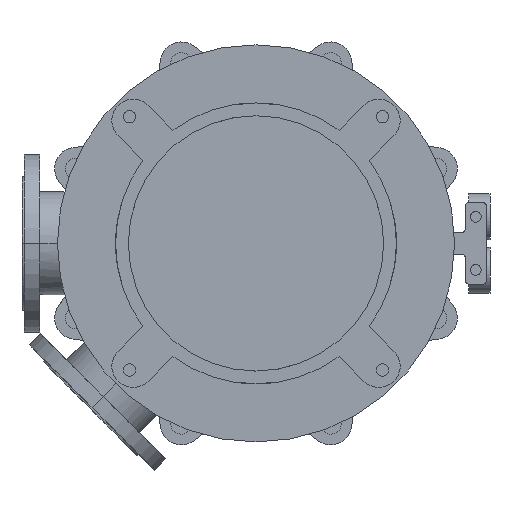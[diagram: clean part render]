
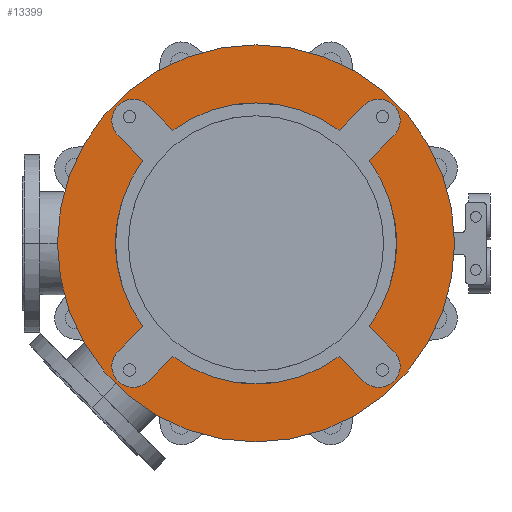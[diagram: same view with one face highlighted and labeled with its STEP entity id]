
A CAD part, front view. The second image highlights one B-rep face of the part: STEP entity #13399.
In plain terms, the highlighted planar face has unit normal (0, -1, 0).
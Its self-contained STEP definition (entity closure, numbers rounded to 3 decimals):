
#3030=CARTESIAN_POINT('',(0.,-25.,0.));
#3031=DIRECTION('',(0.,1.,0.));
#3032=DIRECTION('',(0.592,0.,-0.806));
#3033=AXIS2_PLACEMENT_3D('',#3030,#3031,#3032);
#3048=CARTESIAN_POINT('',(0.,-25.,0.));
#3049=DIRECTION('',(0.,1.,0.));
#3050=DIRECTION('',(0.806,0.,0.592));
#3051=AXIS2_PLACEMENT_3D('',#3048,#3049,#3050);
#3075=CARTESIAN_POINT('',(0.,-25.,0.));
#3076=DIRECTION('',(0.,1.,0.));
#3077=DIRECTION('',(-0.806,0.,-0.592));
#3078=AXIS2_PLACEMENT_3D('',#3075,#3076,#3077);
#3084=CARTESIAN_POINT('',(0.,-25.,0.));
#3085=DIRECTION('',(0.,1.,0.));
#3086=DIRECTION('',(-0.592,0.,0.806));
#3087=AXIS2_PLACEMENT_3D('',#3084,#3085,#3086);
#3262=CARTESIAN_POINT('',(0.,-25.,0.));
#3263=DIRECTION('',(0.,-1.,0.));
#3264=DIRECTION('',(-1.,0.,0.));
#3265=AXIS2_PLACEMENT_3D('',#3262,#3263,#3264);
#3267=CARTESIAN_POINT('',(0.,-25.,0.));
#3268=DIRECTION('',(0.,1.,0.));
#3269=DIRECTION('',(-1.,0.,0.));
#3270=AXIS2_PLACEMENT_3D('',#3267,#3268,#3269);
#3272=CARTESIAN_POINT('',(-173.241,-25.,173.241));
#3273=DIRECTION('',(0.,-1.,0.));
#3274=DIRECTION('',(0.707,0.,0.707));
#3275=AXIS2_PLACEMENT_3D('',#3272,#3273,#3274);
#3277=DIRECTION('',(0.707,0.,-0.707));
#3278=VECTOR('',#3277,49.286);
#3279=CARTESIAN_POINT('',(-194.454,-25.,152.028));
#3280=LINE('',#3279,#3278);
#3281=DIRECTION('',(-0.707,0.,-0.707));
#3282=VECTOR('',#3281,49.286);
#3283=CARTESIAN_POINT('',(-159.604,-25.,-117.178));
#3284=LINE('',#3283,#3282);
#3285=CARTESIAN_POINT('',(-173.241,-25.,-173.241));
#3286=DIRECTION('',(0.,-1.,0.));
#3287=DIRECTION('',(-0.707,0.,0.707));
#3288=AXIS2_PLACEMENT_3D('',#3285,#3286,#3287);
#3290=DIRECTION('',(0.707,0.,0.707));
#3291=VECTOR('',#3290,49.286);
#3292=CARTESIAN_POINT('',(-152.028,-25.,-194.454));
#3293=LINE('',#3292,#3291);
#3294=DIRECTION('',(0.707,0.,-0.707));
#3295=VECTOR('',#3294,49.286);
#3296=CARTESIAN_POINT('',(117.178,-25.,-159.604));
#3297=LINE('',#3296,#3295);
#3298=CARTESIAN_POINT('',(173.241,-25.,-173.241));
#3299=DIRECTION('',(0.,-1.,0.));
#3300=DIRECTION('',(-0.707,0.,-0.707));
#3301=AXIS2_PLACEMENT_3D('',#3298,#3299,#3300);
#3303=DIRECTION('',(-0.707,0.,0.707));
#3304=VECTOR('',#3303,49.286);
#3305=CARTESIAN_POINT('',(194.454,-25.,-152.028));
#3306=LINE('',#3305,#3304);
#3307=DIRECTION('',(0.707,0.,0.707));
#3308=VECTOR('',#3307,49.286);
#3309=CARTESIAN_POINT('',(159.604,-25.,117.178));
#3310=LINE('',#3309,#3308);
#3311=CARTESIAN_POINT('',(173.241,-25.,173.241));
#3312=DIRECTION('',(0.,-1.,0.));
#3313=DIRECTION('',(0.707,0.,-0.707));
#3314=AXIS2_PLACEMENT_3D('',#3311,#3312,#3313);
#3316=DIRECTION('',(-0.707,0.,-0.707));
#3317=VECTOR('',#3316,49.286);
#3318=CARTESIAN_POINT('',(152.028,-25.,194.454));
#3319=LINE('',#3318,#3317);
#3320=DIRECTION('',(-0.707,0.,0.707));
#3321=VECTOR('',#3320,49.286);
#3322=CARTESIAN_POINT('',(-117.178,-25.,159.604));
#3323=LINE('',#3322,#3321);
#8375=CARTESIAN_POINT('',(-280.,-25.,0.));
#8376=CARTESIAN_POINT('',(280.,-25.,0.));
#8377=VERTEX_POINT('',#8375);
#8378=VERTEX_POINT('',#8376);
#8399=CARTESIAN_POINT('',(-194.454,-25.,-152.028));
#8400=CARTESIAN_POINT('',(-152.028,-25.,-194.454));
#8401=VERTEX_POINT('',#8399);
#8402=VERTEX_POINT('',#8400);
#8403=CARTESIAN_POINT('',(-117.178,-25.,-159.604));
#8404=VERTEX_POINT('',#8403);
#8405=CARTESIAN_POINT('',(-159.604,-25.,-117.178));
#8406=VERTEX_POINT('',#8405);
#8415=CARTESIAN_POINT('',(152.028,-25.,-194.454));
#8416=CARTESIAN_POINT('',(194.454,-25.,-152.028));
#8417=VERTEX_POINT('',#8415);
#8418=VERTEX_POINT('',#8416);
#8419=CARTESIAN_POINT('',(159.604,-25.,-117.178));
#8420=VERTEX_POINT('',#8419);
#8421=CARTESIAN_POINT('',(117.178,-25.,-159.604));
#8422=VERTEX_POINT('',#8421);
#8431=CARTESIAN_POINT('',(194.454,-25.,152.028));
#8432=CARTESIAN_POINT('',(152.028,-25.,194.454));
#8433=VERTEX_POINT('',#8431);
#8434=VERTEX_POINT('',#8432);
#8435=CARTESIAN_POINT('',(117.178,-25.,159.604));
#8436=VERTEX_POINT('',#8435);
#8437=CARTESIAN_POINT('',(159.604,-25.,117.178));
#8438=VERTEX_POINT('',#8437);
#8447=CARTESIAN_POINT('',(-152.028,-25.,194.454));
#8448=CARTESIAN_POINT('',(-194.454,-25.,152.028));
#8449=VERTEX_POINT('',#8447);
#8450=VERTEX_POINT('',#8448);
#8451=CARTESIAN_POINT('',(-159.604,-25.,117.178));
#8452=VERTEX_POINT('',#8451);
#8453=CARTESIAN_POINT('',(-117.178,-25.,159.604));
#8454=VERTEX_POINT('',#8453);
#13359=CARTESIAN_POINT('',(0.,-25.,0.));
#13360=DIRECTION('',(0.,-1.,0.));
#13361=DIRECTION('',(-1.,0.,0.));
#13362=AXIS2_PLACEMENT_3D('',#13359,#13360,#13361);
#13363=PLANE('',#13362);
#13365=ORIENTED_EDGE('',*,*,#13364,.F.);
#13367=ORIENTED_EDGE('',*,*,#13366,.T.);
#13368=EDGE_LOOP('',(#13365,#13367));
#13369=FACE_OUTER_BOUND('',#13368,.F.);
#13371=ORIENTED_EDGE('',*,*,#13370,.T.);
#13373=ORIENTED_EDGE('',*,*,#13372,.T.);
#13374=ORIENTED_EDGE('',*,*,#13312,.F.);
#13376=ORIENTED_EDGE('',*,*,#13375,.T.);
#13378=ORIENTED_EDGE('',*,*,#13377,.T.);
#13380=ORIENTED_EDGE('',*,*,#13379,.T.);
#13381=ORIENTED_EDGE('',*,*,#13265,.F.);
#13382=ORIENTED_EDGE('',*,*,#13349,.T.);
#13384=ORIENTED_EDGE('',*,*,#13383,.T.);
#13386=ORIENTED_EDGE('',*,*,#13385,.T.);
#13387=ORIENTED_EDGE('',*,*,#13286,.F.);
#13389=ORIENTED_EDGE('',*,*,#13388,.T.);
#13391=ORIENTED_EDGE('',*,*,#13390,.T.);
#13393=ORIENTED_EDGE('',*,*,#13392,.T.);
#13394=ORIENTED_EDGE('',*,*,#13330,.F.);
#13396=ORIENTED_EDGE('',*,*,#13395,.T.);
#13397=EDGE_LOOP('',(#13371,#13373,#13374,#13376,#13378,#13380,#13381,#13382,
#13384,#13386,#13387,#13389,#13391,#13393,#13394,#13396));
#13398=FACE_BOUND('',#13397,.F.);
#13399=ADVANCED_FACE('',(#13369,#13398),#13363,.T.);
#3034=CIRCLE('',#3033,198.);
#3052=CIRCLE('',#3051,198.);
#3079=CIRCLE('',#3078,198.);
#3088=CIRCLE('',#3087,198.);
#3266=CIRCLE('',#3265,280.);
#3271=CIRCLE('',#3270,280.);
#3276=CIRCLE('',#3275,30.);
#3289=CIRCLE('',#3288,30.);
#3302=CIRCLE('',#3301,30.);
#3315=CIRCLE('',#3314,30.);
#13265=EDGE_CURVE('',#8422,#8404,#3034,.T.);
#13286=EDGE_CURVE('',#8438,#8420,#3052,.T.);
#13312=EDGE_CURVE('',#8406,#8452,#3079,.T.);
#13330=EDGE_CURVE('',#8454,#8436,#3088,.T.);
#13349=EDGE_CURVE('',#8422,#8417,#3297,.T.);
#13364=EDGE_CURVE('',#8377,#8378,#3266,.T.);
#13366=EDGE_CURVE('',#8377,#8378,#3271,.T.);
#13370=EDGE_CURVE('',#8449,#8450,#3276,.T.);
#13372=EDGE_CURVE('',#8450,#8452,#3280,.T.);
#13375=EDGE_CURVE('',#8406,#8401,#3284,.T.);
#13377=EDGE_CURVE('',#8401,#8402,#3289,.T.);
#13379=EDGE_CURVE('',#8402,#8404,#3293,.T.);
#13383=EDGE_CURVE('',#8417,#8418,#3302,.T.);
#13385=EDGE_CURVE('',#8418,#8420,#3306,.T.);
#13388=EDGE_CURVE('',#8438,#8433,#3310,.T.);
#13390=EDGE_CURVE('',#8433,#8434,#3315,.T.);
#13392=EDGE_CURVE('',#8434,#8436,#3319,.T.);
#13395=EDGE_CURVE('',#8454,#8449,#3323,.T.);
